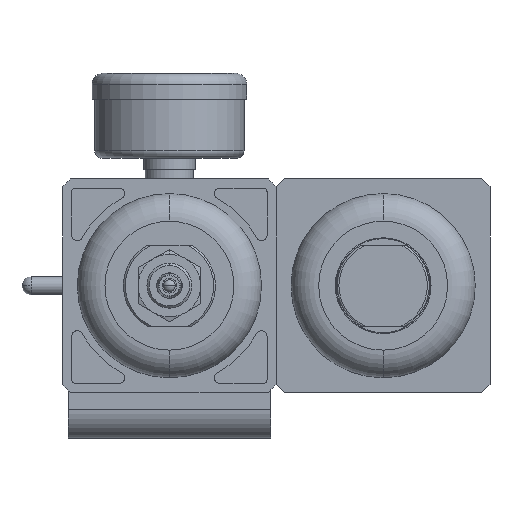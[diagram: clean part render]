
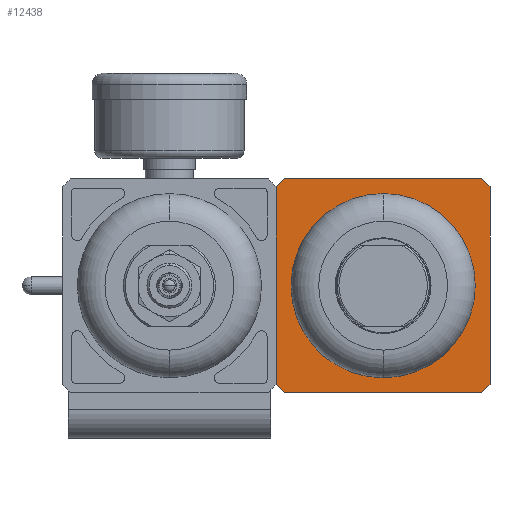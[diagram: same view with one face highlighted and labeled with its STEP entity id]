
A CAD part, front view. The second image highlights one B-rep face of the part: STEP entity #12438.
In plain terms, the highlighted planar face has unit normal (0, -1, 0).
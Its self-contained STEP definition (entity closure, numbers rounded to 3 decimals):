
#22 = CARTESIAN_POINT ( 'NONE',  ( 2.18, -33., -29. ) ) ;
#169 = EDGE_CURVE ( 'NONE', #7362, #8258, #16404, .T. ) ;
#291 = CARTESIAN_POINT ( 'NONE',  ( 29., -33., -25. ) ) ;
#402 = VERTEX_POINT ( 'NONE', #764 ) ;
#418 = EDGE_CURVE ( 'NONE', #11671, #13081, #5771, .T. ) ;
#764 = CARTESIAN_POINT ( 'NONE',  ( 29., -33., 25. ) ) ;
#853 = LINE ( 'NONE', #16074, #8660 ) ;
#1016 = CIRCLE ( 'NONE', #11139, 25. ) ;
#1138 = EDGE_CURVE ( 'NONE', #8030, #402, #1016, .T. ) ;
#1844 = DIRECTION ( 'NONE',  ( 0., 1., 0. ) ) ;
#2307 = LINE ( 'NONE', #7402, #2361 ) ;
#2361 = VECTOR ( 'NONE', #6072, 1000. ) ;
#2420 = CARTESIAN_POINT ( 'NONE',  ( 2.18, -33., -29. ) ) ;
#2458 = CARTESIAN_POINT ( 'NONE',  ( 0., -33., -26.82 ) ) ;
#2681 = LINE ( 'NONE', #5089, #11956 ) ;
#2885 = VECTOR ( 'NONE', #7721, 1000. ) ;
#2964 = CARTESIAN_POINT ( 'NONE',  ( 29., -33., 0. ) ) ;
#3258 = CARTESIAN_POINT ( 'NONE',  ( 58., -33., -26.82 ) ) ;
#3646 = CARTESIAN_POINT ( 'NONE',  ( 55.82, -33., -29. ) ) ;
#3724 = CARTESIAN_POINT ( 'NONE',  ( 58., -33., 26.82 ) ) ;
#4193 = CIRCLE ( 'NONE', #6326, 25. ) ;
#4301 = ORIENTED_EDGE ( 'NONE', *, *, #169, .F. ) ;
#4319 = ORIENTED_EDGE ( 'NONE', *, *, #6335, .F. ) ;
#4650 = LINE ( 'NONE', #3258, #15919 ) ;
#4746 = ORIENTED_EDGE ( 'NONE', *, *, #14748, .F. ) ;
#5089 = CARTESIAN_POINT ( 'NONE',  ( 55.82, -33., -29. ) ) ;
#5288 = VECTOR ( 'NONE', #6393, 1000. ) ;
#5624 = DIRECTION ( 'NONE',  ( 0., 0., 1. ) ) ;
#5771 = LINE ( 'NONE', #9692, #11651 ) ;
#5845 = ORIENTED_EDGE ( 'NONE', *, *, #1138, .F. ) ;
#5963 = CARTESIAN_POINT ( 'NONE',  ( 2.18, -33., 29. ) ) ;
#6072 = DIRECTION ( 'NONE',  ( 0.707, 0., -0.707 ) ) ;
#6326 = AXIS2_PLACEMENT_3D ( 'NONE', #2964, #8036, #5624 ) ;
#6335 = EDGE_CURVE ( 'NONE', #7262, #12926, #4650, .T. ) ;
#6393 = DIRECTION ( 'NONE',  ( 0., 0., 1. ) ) ;
#6693 = VERTEX_POINT ( 'NONE', #3724 ) ;
#6786 = CARTESIAN_POINT ( 'NONE',  ( 58., -33., 26.82 ) ) ;
#6886 = EDGE_LOOP ( 'NONE', ( #5845, #4746 ) ) ;
#7262 = VERTEX_POINT ( 'NONE', #7768 ) ;
#7362 = VERTEX_POINT ( 'NONE', #15875 ) ;
#7402 = CARTESIAN_POINT ( 'NONE',  ( 55.82, -33., 29. ) ) ;
#7583 = EDGE_CURVE ( 'NONE', #12926, #13675, #2681, .T. ) ;
#7721 = DIRECTION ( 'NONE',  ( 0., 0., -1. ) ) ;
#7768 = CARTESIAN_POINT ( 'NONE',  ( 58., -33., -26.82 ) ) ;
#7789 = DIRECTION ( 'NONE',  ( -0.707, 0., 0.707 ) ) ;
#8030 = VERTEX_POINT ( 'NONE', #291 ) ;
#8036 = DIRECTION ( 'NONE',  ( 0., -1., 0. ) ) ;
#8258 = VERTEX_POINT ( 'NONE', #11271 ) ;
#8660 = VECTOR ( 'NONE', #16154, 1000. ) ;
#9206 = LINE ( 'NONE', #22, #9255 ) ;
#9210 = LINE ( 'NONE', #6786, #2885 ) ;
#9219 = EDGE_CURVE ( 'NONE', #13081, #6693, #2307, .T. ) ;
#9255 = VECTOR ( 'NONE', #7789, 1000. ) ;
#9680 = EDGE_CURVE ( 'NONE', #6693, #7262, #9210, .T. ) ;
#9692 = CARTESIAN_POINT ( 'NONE',  ( 2.18, -33., 29. ) ) ;
#10282 = DIRECTION ( 'NONE',  ( 0., 0., 1. ) ) ;
#10839 = DIRECTION ( 'NONE',  ( 1., 0., 0. ) ) ;
#11139 = AXIS2_PLACEMENT_3D ( 'NONE', #12633, #14056, #10282 ) ;
#11271 = CARTESIAN_POINT ( 'NONE',  ( 0., -33., 26.82 ) ) ;
#11520 = FACE_BOUND ( 'NONE', #6886, .T. ) ;
#11651 = VECTOR ( 'NONE', #14657, 1000. ) ;
#11671 = VERTEX_POINT ( 'NONE', #5963 ) ;
#11701 = FACE_OUTER_BOUND ( 'NONE', #12532, .T. ) ;
#11956 = VECTOR ( 'NONE', #12937, 1000. ) ;
#12438 = ADVANCED_FACE ( 'NONE', ( #11701, #11520 ), #15389, .F. ) ;
#12532 = EDGE_LOOP ( 'NONE', ( #13338, #13657, #4319, #12917, #15339, #15646, #15850, #4301 ) ) ;
#12633 = CARTESIAN_POINT ( 'NONE',  ( 29., -33., 0. ) ) ;
#12666 = CARTESIAN_POINT ( 'NONE',  ( 55.82, -33., 29. ) ) ;
#12917 = ORIENTED_EDGE ( 'NONE', *, *, #9680, .F. ) ;
#12926 = VERTEX_POINT ( 'NONE', #3646 ) ;
#12937 = DIRECTION ( 'NONE',  ( -1., 0., 0. ) ) ;
#13081 = VERTEX_POINT ( 'NONE', #12666 ) ;
#13258 = EDGE_CURVE ( 'NONE', #8258, #11671, #853, .T. ) ;
#13338 = ORIENTED_EDGE ( 'NONE', *, *, #14656, .F. ) ;
#13441 = DIRECTION ( 'NONE',  ( -0.707, 0., -0.707 ) ) ;
#13657 = ORIENTED_EDGE ( 'NONE', *, *, #7583, .F. ) ;
#13675 = VERTEX_POINT ( 'NONE', #2420 ) ;
#14056 = DIRECTION ( 'NONE',  ( 0., -1., 0. ) ) ;
#14539 = CARTESIAN_POINT ( 'NONE',  ( 29., -33., 0. ) ) ;
#14656 = EDGE_CURVE ( 'NONE', #13675, #7362, #9206, .T. ) ;
#14657 = DIRECTION ( 'NONE',  ( 1., 0., 0. ) ) ;
#14748 = EDGE_CURVE ( 'NONE', #402, #8030, #4193, .T. ) ;
#15339 = ORIENTED_EDGE ( 'NONE', *, *, #9219, .F. ) ;
#15389 = PLANE ( 'NONE',  #15992 ) ;
#15646 = ORIENTED_EDGE ( 'NONE', *, *, #418, .F. ) ;
#15850 = ORIENTED_EDGE ( 'NONE', *, *, #13258, .F. ) ;
#15875 = CARTESIAN_POINT ( 'NONE',  ( 0., -33., -26.82 ) ) ;
#15919 = VECTOR ( 'NONE', #13441, 1000. ) ;
#15992 = AXIS2_PLACEMENT_3D ( 'NONE', #14539, #1844, #10839 ) ;
#16074 = CARTESIAN_POINT ( 'NONE',  ( 0., -33., 26.82 ) ) ;
#16154 = DIRECTION ( 'NONE',  ( 0.707, 0., 0.707 ) ) ;
#16404 = LINE ( 'NONE', #2458, #5288 ) ;
